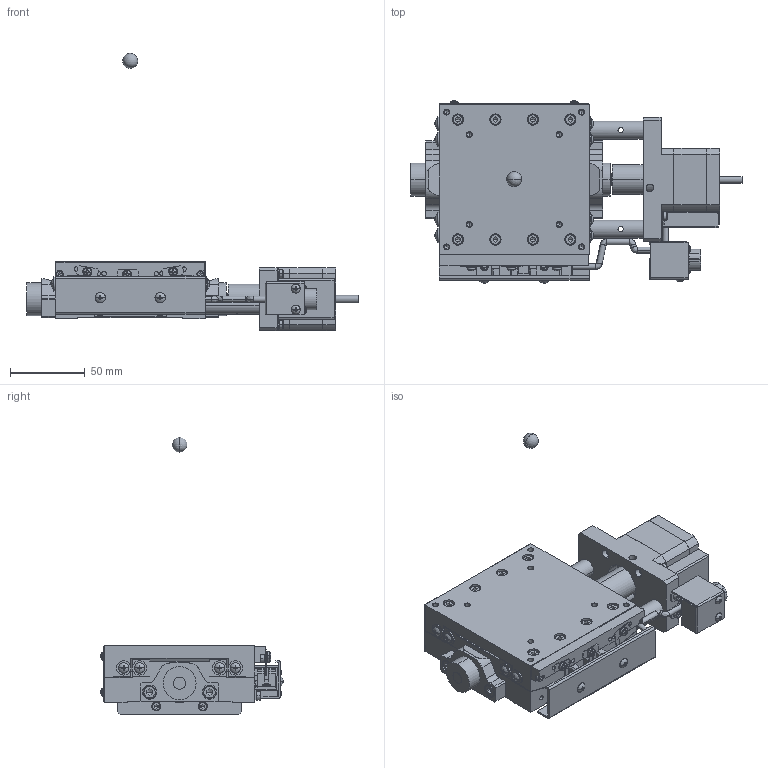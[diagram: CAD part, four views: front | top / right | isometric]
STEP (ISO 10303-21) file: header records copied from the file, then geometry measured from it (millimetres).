
FILE_DESCRIPTION( (''), '2;1');
FILE_NAME ('SA10A-R2M01-R.stp','2021-11-19T13:37:18',(''),(''),'spGate 17.5.5','','');
FILE_SCHEMA (('AUTOMOTIVE_DESIGN'));
Length unit declared in the file: millimetre
Products named in the file (4): Assembly; SA10A-R2M01-R-prt0; SA10A-R2M01-R-prt1; SA10A-R2M01-R-prt2
Assembly tree (3 placements, depth 2):
  Assembly
    SA10A-R2M01-R-prt0
    SA10A-R2M01-R-prt1
    SA10A-R2M01-R-prt2
Bounding box: 221.5 x 121.57 x 185 mm (x, y, z)
Volume: 534402.9 mm3; surface area: 127072.7 mm2
Topology: 3 solids, 6 shells, 2665 faces, 6740 edges, 4203 vertices
Faces by surface type: plane 1775, cylinder 535, bspline 308, sphere 47
Entity records: 136144 total; most frequent: CARTESIAN_POINT 20149, ORIENTED_EDGE 13276, DIRECTION 12423, COLOUR_RGB 9306, PRESENTATION_STYLE_ASSIGNMENT 9306, STYLED_ITEM 9306, EDGE_CURVE 6638, DRAUGHTING_PRE_DEFINED_CURVE_FONT 6638
